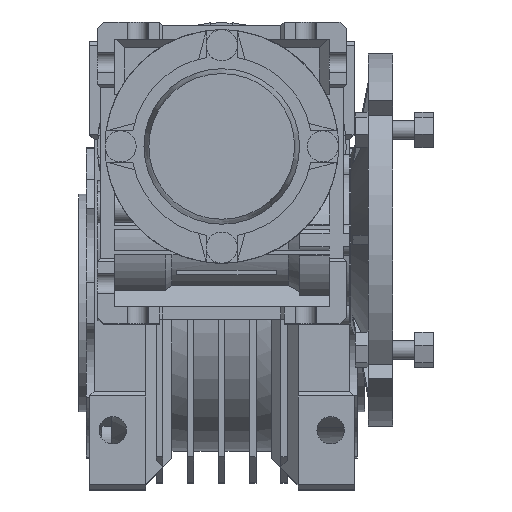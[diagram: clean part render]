
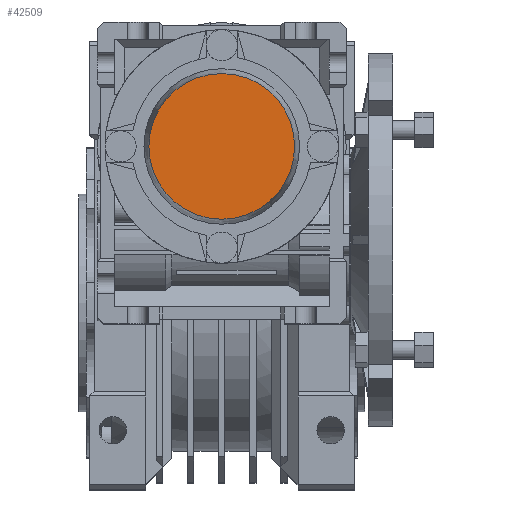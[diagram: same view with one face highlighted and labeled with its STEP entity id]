
A CAD part, top view. The second image highlights one B-rep face of the part: STEP entity #42509.
In plain terms, the highlighted planar face has unit normal (0, 0, 1) as drawn and (1, 0, 0) by its records, which use the part's own axes.
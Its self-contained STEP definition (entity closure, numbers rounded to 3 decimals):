
#1291=PLANE('',#45279);
#15966=ORIENTED_EDGE('',*,*,#20749,.T.);
#20749=EDGE_CURVE('',#23796,#23796,#24914,.T.);
#23796=VERTEX_POINT('',#62972);
#24914=CIRCLE('',#45278,23.413);
#26740=EDGE_LOOP('',(#15966));
#28724=FACE_BOUND('',#26740,.T.);
#42509=ADVANCED_FACE('',(#28724),#1291,.F.);
#45278=AXIS2_PLACEMENT_3D('',#62971,#53387,#53388);
#45279=AXIS2_PLACEMENT_3D('',#62973,#53389,#53390);
#53387=DIRECTION('',(1.,0.,0.));
#53388=DIRECTION('',(0.,0.,-1.));
#53389=DIRECTION('',(-1.,0.,0.));
#53390=DIRECTION('',(0.,0.,1.));
#62971=CARTESIAN_POINT('',(13.,0.,0.));
#62972=CARTESIAN_POINT('',(13.,0.,-23.413));
#62973=CARTESIAN_POINT('',(13.,23.413,0.));
